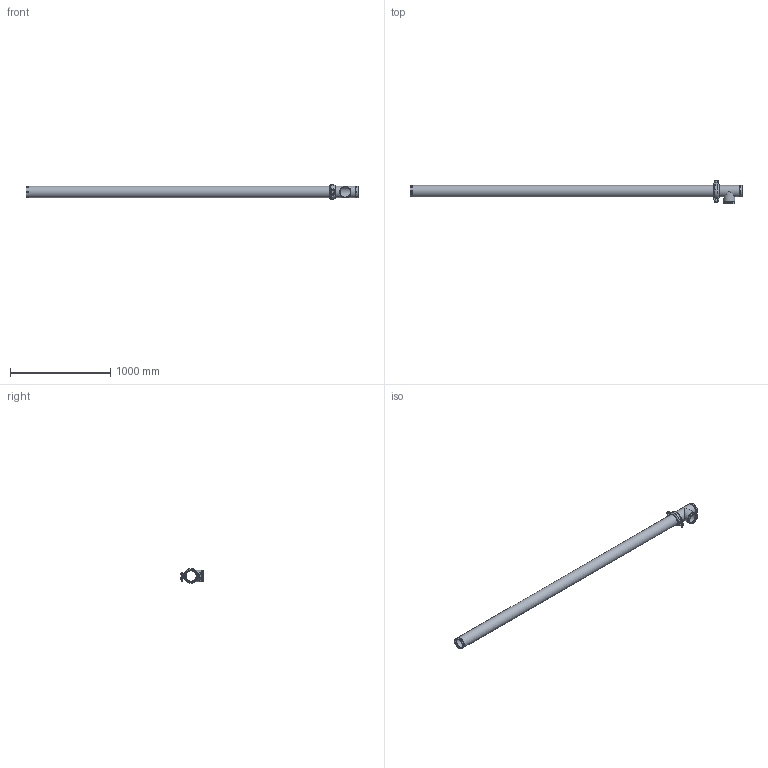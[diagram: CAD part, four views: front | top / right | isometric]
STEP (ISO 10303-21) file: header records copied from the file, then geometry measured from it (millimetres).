
FILE_DESCRIPTION(/* description */ ('VIC LONG RUN FITTING No R15 (OGS)','CAx-IF Rec.Pracs.---Representation and Presentation of Product Manufacturing Information (PMI)---4.0---2014-10-13'),/* implementation_level */ '2;1');
FILE_NAME(/* name */ 'C:\Users\Vjadhav\AppData\Roaming\Autodesk\ApplicationPlugins\Back Up\Victaulic_IPS_Long Run Fittings_No R15 (OGS)\Victaulic_IPS_Long Run Fittings_No R15 (OGS)_4 (100).stp',/* time_stamp */ '2020-10-06T19:04:02+06:00',/* author */ ('Vjadhav'),/* organization */ ('Victaulic'),/* preprocessor_version */ 'ST-DEVELOPER v17.2',/* originating_system */ 'Autodesk Inventor 2019',/* authorisation */ '');
FILE_SCHEMA (('AP242_MANAGED_MODEL_BASED_3D_ENGINEERING_MIM_LF { 1 0 10303 442 1 1 4 }'));
Length unit declared in the file: inch
Products named in the file (4): R15-04.0; 020-04.0; 107N-04.0; Pipe_R13-04.0
Assembly tree (3 placements, depth 2):
  R15-04.0
    020-04.0
    107N-04.0
    Pipe_R13-04.0
Bounding box: 3305.81 x 238.12 x 148.75 mm (x, y, z)
Volume: 7270104 mm3; surface area: 2381850.6 mm2
Topology: 3 solids, 3 shells, 154 faces, 401 edges, 272 vertices
Faces by surface type: plane 65, cylinder 61, bspline 16, torus 6, cone 4, sphere 2
Full cylindrical faces by diameter (mm): 12.7 x4, 22.225 x2, 101.6 x1, 102.26 x3, 110.084 x5, 114.3 x10
Entity records: 5747 total; most frequent: CARTESIAN_POINT 1510, DIRECTION 859, ORIENTED_EDGE 802, EDGE_CURVE 401, AXIS2_PLACEMENT_3D 341, VERTEX_POINT 272, EDGE_LOOP 185, LINE 177
